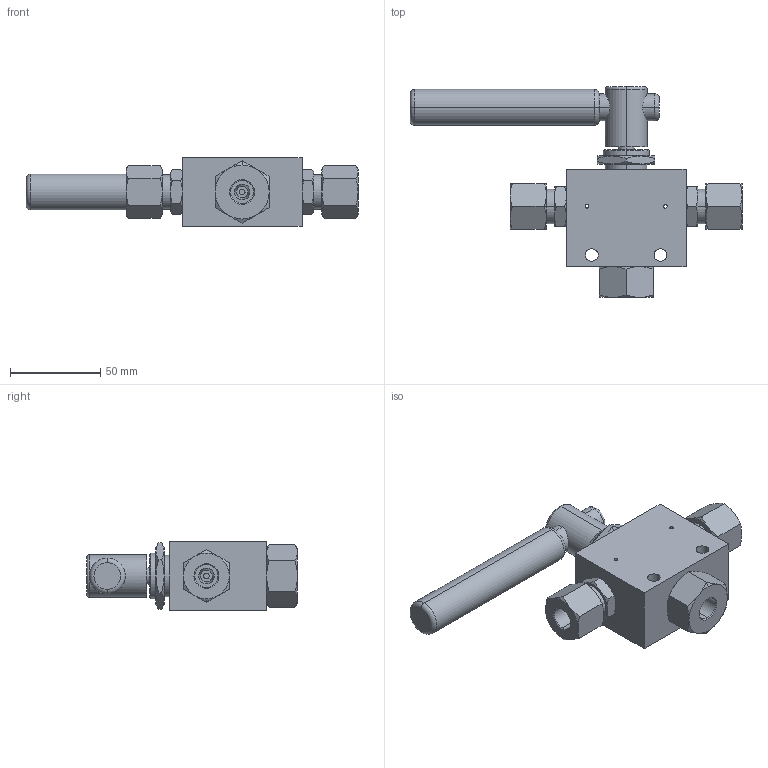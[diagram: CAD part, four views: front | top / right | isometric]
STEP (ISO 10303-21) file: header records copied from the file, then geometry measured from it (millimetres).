
FILE_DESCRIPTION (( 'STEP AP203' ), '1' );
FILE_NAME ('BV1503S04-3-180.STEP', '2022-04-07T09:55:53', ( '' ), ( '' ), 'SwSTEP 2.0', 'SolidWorks 2020', '' );
FILE_SCHEMA (( 'CONFIG_CONTROL_DESIGN' ));
Length unit declared in the file: millimetre
Products named in the file (1): BV1503S04-3-180
Bounding box: 184.33 x 117 x 38 mm (x, y, z)
Volume: 226985.3 mm3; surface area: 40637.6 mm2
Topology: 1 solids, 1 shells, 229 faces, 494 edges, 290 vertices
Faces by surface type: cone 102, plane 67, cylinder 52, torus 8
Entity records: 6901 total; most frequent: CARTESIAN_POINT 1998, DIRECTION 1014, ORIENTED_EDGE 980, EDGE_CURVE 490, AXIS2_PLACEMENT_3D 442, VERTEX_POINT 290, EDGE_LOOP 264, ADVANCED_FACE 229
